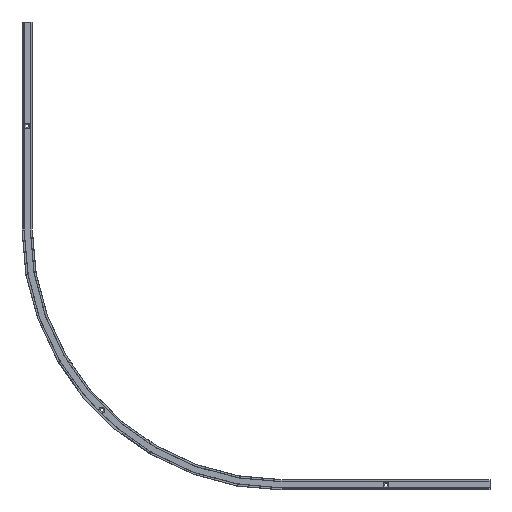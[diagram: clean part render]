
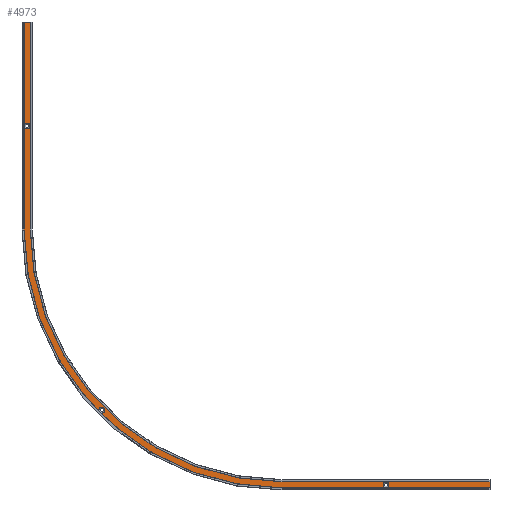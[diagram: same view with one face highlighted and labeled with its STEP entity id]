
A CAD part, front view. The second image highlights one B-rep face of the part: STEP entity #4973.
In plain terms, the highlighted planar face has unit normal (0, -1, 0).
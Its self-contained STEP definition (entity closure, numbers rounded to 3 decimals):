
#51 = ORIENTED_EDGE ( 'NONE', *, *, #6660, .T. ) ;
#161 = CARTESIAN_POINT ( 'NONE',  ( -9.9, -1.9, 0. ) ) ;
#166 = VERTEX_POINT ( 'NONE', #2893 ) ;
#260 = VERTEX_POINT ( 'NONE', #1870 ) ;
#307 = AXIS2_PLACEMENT_3D ( 'NONE', #4337, #5417, #5539 ) ;
#323 = VERTEX_POINT ( 'NONE', #2428 ) ;
#361 = CARTESIAN_POINT ( 'NONE',  ( 550., -1.9, -552.6 ) ) ;
#444 = VERTEX_POINT ( 'NONE', #5471 ) ;
#467 = LINE ( 'NONE', #2769, #6884 ) ;
#538 = DIRECTION ( 'NONE',  ( -1., 0., 0. ) ) ;
#562 = CARTESIAN_POINT ( 'NONE',  ( 83.449, -1.9, -466.551 ) ) ;
#572 = CARTESIAN_POINT ( 'NONE',  ( -2.6, -1.9, 0. ) ) ;
#722 = EDGE_CURVE ( 'NONE', #260, #3084, #5712, .T. ) ;
#894 = EDGE_CURVE ( 'NONE', #7083, #5652, #7357, .T. ) ;
#930 = LINE ( 'NONE', #4994, #6235 ) ;
#956 = ORIENTED_EDGE ( 'NONE', *, *, #5859, .F. ) ;
#976 = DIRECTION ( 'NONE',  ( 0., 0., -1. ) ) ;
#1048 = CARTESIAN_POINT ( 'NONE',  ( 425., -1.9, -559.75 ) ) ;
#1070 = ORIENTED_EDGE ( 'NONE', *, *, #6820, .F. ) ;
#1107 = CARTESIAN_POINT ( 'NONE',  ( 425., -1.9, -556.25 ) ) ;
#1135 = DIRECTION ( 'NONE',  ( 0., 1., 0. ) ) ;
#1213 = DIRECTION ( 'NONE',  ( 1., 0., 0. ) ) ;
#1250 = EDGE_CURVE ( 'NONE', #3084, #5890, #3085, .T. ) ;
#1270 = CARTESIAN_POINT ( 'NONE',  ( -2.6, -1.9, 0. ) ) ;
#1276 = CIRCLE ( 'NONE', #7331, 3.5 ) ;
#1332 = CIRCLE ( 'NONE', #4614, 302.6 ) ;
#1470 = VECTOR ( 'NONE', #1213, 1000. ) ;
#1475 = VERTEX_POINT ( 'NONE', #2488 ) ;
#1528 = CARTESIAN_POINT ( 'NONE',  ( 83.449, -1.9, -466.551 ) ) ;
#1547 = VERTEX_POINT ( 'NONE', #6664 ) ;
#1553 = CARTESIAN_POINT ( 'NONE',  ( -9.9, -1.9, -250. ) ) ;
#1570 = DIRECTION ( 'NONE',  ( 0., 1., 0. ) ) ;
#1601 = CARTESIAN_POINT ( 'NONE',  ( 300., -1.9, -250. ) ) ;
#1661 = CARTESIAN_POINT ( 'NONE',  ( -2.6, -1.9, 0. ) ) ;
#1698 = LINE ( 'NONE', #4627, #3323 ) ;
#1703 = CARTESIAN_POINT ( 'NONE',  ( 79.949, -1.9, -466.551 ) ) ;
#1706 = LINE ( 'NONE', #5131, #1470 ) ;
#1708 = ORIENTED_EDGE ( 'NONE', *, *, #6014, .T. ) ;
#1716 = CARTESIAN_POINT ( 'NONE',  ( 425., -1.9, -556.25 ) ) ;
#1844 = DIRECTION ( 'NONE',  ( -1., 0., 0. ) ) ;
#1870 = CARTESIAN_POINT ( 'NONE',  ( 86.949, -1.9, -466.551 ) ) ;
#1975 = CIRCLE ( 'NONE', #307, 3.5 ) ;
#2224 = AXIS2_PLACEMENT_3D ( 'NONE', #6212, #5152, #2727 ) ;
#2319 = AXIS2_PLACEMENT_3D ( 'NONE', #2517, #3294, #4847 ) ;
#2370 = EDGE_CURVE ( 'NONE', #166, #1475, #1332, .T. ) ;
#2428 = CARTESIAN_POINT ( 'NONE',  ( -9.9, -1.9, 0. ) ) ;
#2463 = DIRECTION ( 'NONE',  ( 0., 0., -1. ) ) ;
#2488 = CARTESIAN_POINT ( 'NONE',  ( 300., -1.9, -552.6 ) ) ;
#2517 = CARTESIAN_POINT ( 'NONE',  ( 83.449, -1.9, -466.551 ) ) ;
#2550 = CARTESIAN_POINT ( 'NONE',  ( 300., -1.9, -250. ) ) ;
#2579 = LINE ( 'NONE', #161, #3825 ) ;
#2680 = AXIS2_PLACEMENT_3D ( 'NONE', #562, #2902, #1844 ) ;
#2716 = ORIENTED_EDGE ( 'NONE', *, *, #4048, .T. ) ;
#2727 = DIRECTION ( 'NONE',  ( 1., 0., 0. ) ) ;
#2753 = DIRECTION ( 'NONE',  ( 0., -1., 0. ) ) ;
#2769 = CARTESIAN_POINT ( 'NONE',  ( 550., -1.9, -552.6 ) ) ;
#2893 = CARTESIAN_POINT ( 'NONE',  ( -2.6, -1.9, -250. ) ) ;
#2896 = VERTEX_POINT ( 'NONE', #3104 ) ;
#2902 = DIRECTION ( 'NONE',  ( 0., 1., 0. ) ) ;
#2991 = EDGE_CURVE ( 'NONE', #1547, #6156, #4538, .T. ) ;
#3084 = VERTEX_POINT ( 'NONE', #5574 ) ;
#3085 = CIRCLE ( 'NONE', #4440, 3.5 ) ;
#3104 = CARTESIAN_POINT ( 'NONE',  ( 300., -1.9, -559.9 ) ) ;
#3294 = DIRECTION ( 'NONE',  ( 0., 1., 0. ) ) ;
#3323 = VECTOR ( 'NONE', #3951, 1000. ) ;
#3392 = ORIENTED_EDGE ( 'NONE', *, *, #6622, .F. ) ;
#3482 = AXIS2_PLACEMENT_3D ( 'NONE', #1716, #4032, #6372 ) ;
#3500 = DIRECTION ( 'NONE',  ( 0., 1., 0. ) ) ;
#3528 = DIRECTION ( 'NONE',  ( 1., 0., 0. ) ) ;
#3643 = VERTEX_POINT ( 'NONE', #5253 ) ;
#3715 = ORIENTED_EDGE ( 'NONE', *, *, #722, .T. ) ;
#3825 = VECTOR ( 'NONE', #2463, 1000. ) ;
#3860 = FACE_OUTER_BOUND ( 'NONE', #3973, .T. ) ;
#3945 = AXIS2_PLACEMENT_3D ( 'NONE', #1107, #3500, #4687 ) ;
#3951 = DIRECTION ( 'NONE',  ( 1., 0., 0. ) ) ;
#3973 = EDGE_LOOP ( 'NONE', ( #5976, #5342, #4526, #956, #1070, #4504, #3392, #1708 ) ) ;
#3982 = DIRECTION ( 'NONE',  ( 0., -1., 0. ) ) ;
#3995 = CIRCLE ( 'NONE', #7003, 3.5 ) ;
#4032 = DIRECTION ( 'NONE',  ( 0., 1., 0. ) ) ;
#4048 = EDGE_CURVE ( 'NONE', #5652, #3643, #4784, .T. ) ;
#4072 = EDGE_LOOP ( 'NONE', ( #2716, #7166, #7228 ) ) ;
#4134 = EDGE_LOOP ( 'NONE', ( #5943, #6039, #51 ) ) ;
#4166 = AXIS2_PLACEMENT_3D ( 'NONE', #1601, #3982, #6215 ) ;
#4261 = CARTESIAN_POINT ( 'NONE',  ( 421.5, -1.9, -556.25 ) ) ;
#4277 = DIRECTION ( 'NONE',  ( 0., -1., 0. ) ) ;
#4279 = EDGE_CURVE ( 'NONE', #323, #4936, #2579, .T. ) ;
#4282 = EDGE_CURVE ( 'NONE', #3643, #7083, #1276, .T. ) ;
#4337 = CARTESIAN_POINT ( 'NONE',  ( -6.25, -1.9, -125. ) ) ;
#4359 = VECTOR ( 'NONE', #538, 1000. ) ;
#4391 = DIRECTION ( 'NONE',  ( 0., 0., -1. ) ) ;
#4440 = AXIS2_PLACEMENT_3D ( 'NONE', #1528, #1135, #3528 ) ;
#4495 = CARTESIAN_POINT ( 'NONE',  ( -6.25, -1.9, -125. ) ) ;
#4504 = ORIENTED_EDGE ( 'NONE', *, *, #2370, .F. ) ;
#4519 = EDGE_CURVE ( 'NONE', #2896, #444, #1706, .T. ) ;
#4526 = ORIENTED_EDGE ( 'NONE', *, *, #4519, .T. ) ;
#4538 = CIRCLE ( 'NONE', #2224, 3.5 ) ;
#4610 = EDGE_CURVE ( 'NONE', #5890, #260, #5935, .T. ) ;
#4614 = AXIS2_PLACEMENT_3D ( 'NONE', #2550, #4277, #7292 ) ;
#4627 = CARTESIAN_POINT ( 'NONE',  ( 300., -1.9, -552.6 ) ) ;
#4684 = ORIENTED_EDGE ( 'NONE', *, *, #4610, .T. ) ;
#4687 = DIRECTION ( 'NONE',  ( -1., 0., 0. ) ) ;
#4742 = CARTESIAN_POINT ( 'NONE',  ( -6.25, -1.9, -128.5 ) ) ;
#4784 = CIRCLE ( 'NONE', #3945, 3.5 ) ;
#4847 = DIRECTION ( 'NONE',  ( 1., 0., 0. ) ) ;
#4912 = CARTESIAN_POINT ( 'NONE',  ( 425., -1.9, -556.25 ) ) ;
#4936 = VERTEX_POINT ( 'NONE', #1553 ) ;
#4973 = ADVANCED_FACE ( 'NONE', ( #3860, #6769, #5643, #5109 ), #6202, .T. ) ;
#4994 = CARTESIAN_POINT ( 'NONE',  ( -2.6, -1.9, 0. ) ) ;
#5061 = ORIENTED_EDGE ( 'NONE', *, *, #1250, .T. ) ;
#5109 = FACE_BOUND ( 'NONE', #4072, .T. ) ;
#5127 = VERTEX_POINT ( 'NONE', #1270 ) ;
#5131 = CARTESIAN_POINT ( 'NONE',  ( 300., -1.9, -559.9 ) ) ;
#5152 = DIRECTION ( 'NONE',  ( 0., 1., 0. ) ) ;
#5253 = CARTESIAN_POINT ( 'NONE',  ( 428.5, -1.9, -556.25 ) ) ;
#5342 = ORIENTED_EDGE ( 'NONE', *, *, #6890, .T. ) ;
#5386 = VERTEX_POINT ( 'NONE', #361 ) ;
#5417 = DIRECTION ( 'NONE',  ( 0., 1., 0. ) ) ;
#5471 = CARTESIAN_POINT ( 'NONE',  ( 550., -1.9, -559.9 ) ) ;
#5539 = DIRECTION ( 'NONE',  ( -1., 0., 0. ) ) ;
#5574 = CARTESIAN_POINT ( 'NONE',  ( 83.449, -1.9, -470.051 ) ) ;
#5643 = FACE_BOUND ( 'NONE', #6191, .T. ) ;
#5652 = VERTEX_POINT ( 'NONE', #4261 ) ;
#5712 = CIRCLE ( 'NONE', #2319, 3.5 ) ;
#5724 = LINE ( 'NONE', #572, #4359 ) ;
#5745 = EDGE_CURVE ( 'NONE', #6156, #5817, #3995, .T. ) ;
#5817 = VERTEX_POINT ( 'NONE', #6148 ) ;
#5859 = EDGE_CURVE ( 'NONE', #5386, #444, #467, .T. ) ;
#5890 = VERTEX_POINT ( 'NONE', #1703 ) ;
#5935 = CIRCLE ( 'NONE', #2680, 3.5 ) ;
#5943 = ORIENTED_EDGE ( 'NONE', *, *, #2991, .T. ) ;
#5976 = ORIENTED_EDGE ( 'NONE', *, *, #4279, .T. ) ;
#6014 = EDGE_CURVE ( 'NONE', #5127, #323, #5724, .T. ) ;
#6039 = ORIENTED_EDGE ( 'NONE', *, *, #5745, .T. ) ;
#6110 = DIRECTION ( 'NONE',  ( 0., 0., -1. ) ) ;
#6148 = CARTESIAN_POINT ( 'NONE',  ( -9.75, -1.9, -125. ) ) ;
#6156 = VERTEX_POINT ( 'NONE', #4742 ) ;
#6191 = EDGE_LOOP ( 'NONE', ( #3715, #5061, #4684 ) ) ;
#6202 = PLANE ( 'NONE',  #7140 ) ;
#6212 = CARTESIAN_POINT ( 'NONE',  ( -6.25, -1.9, -125. ) ) ;
#6215 = DIRECTION ( 'NONE',  ( -1., 0., 0. ) ) ;
#6235 = VECTOR ( 'NONE', #4391, 1000. ) ;
#6372 = DIRECTION ( 'NONE',  ( 1., 0., 0. ) ) ;
#6446 = DIRECTION ( 'NONE',  ( 1., 0., 0. ) ) ;
#6622 = EDGE_CURVE ( 'NONE', #5127, #166, #930, .T. ) ;
#6631 = DIRECTION ( 'NONE',  ( 1., 0., 0. ) ) ;
#6660 = EDGE_CURVE ( 'NONE', #5817, #1547, #1975, .T. ) ;
#6664 = CARTESIAN_POINT ( 'NONE',  ( -2.75, -1.9, -125. ) ) ;
#6769 = FACE_BOUND ( 'NONE', #4134, .T. ) ;
#6820 = EDGE_CURVE ( 'NONE', #1475, #5386, #1698, .T. ) ;
#6823 = CIRCLE ( 'NONE', #4166, 309.9 ) ;
#6884 = VECTOR ( 'NONE', #6110, 1000. ) ;
#6890 = EDGE_CURVE ( 'NONE', #4936, #2896, #6823, .T. ) ;
#7003 = AXIS2_PLACEMENT_3D ( 'NONE', #4495, #1570, #6631 ) ;
#7083 = VERTEX_POINT ( 'NONE', #1048 ) ;
#7140 = AXIS2_PLACEMENT_3D ( 'NONE', #1661, #2753, #976 ) ;
#7166 = ORIENTED_EDGE ( 'NONE', *, *, #4282, .T. ) ;
#7204 = DIRECTION ( 'NONE',  ( 0., 1., 0. ) ) ;
#7228 = ORIENTED_EDGE ( 'NONE', *, *, #894, .T. ) ;
#7292 = DIRECTION ( 'NONE',  ( -1., 0., 0. ) ) ;
#7331 = AXIS2_PLACEMENT_3D ( 'NONE', #4912, #7204, #6446 ) ;
#7357 = CIRCLE ( 'NONE', #3482, 3.5 ) ;
